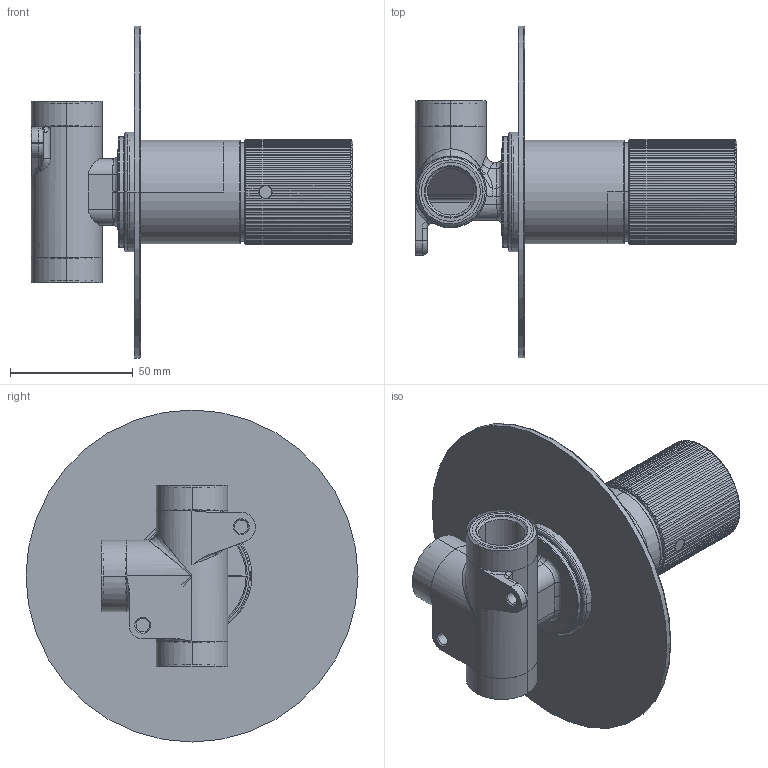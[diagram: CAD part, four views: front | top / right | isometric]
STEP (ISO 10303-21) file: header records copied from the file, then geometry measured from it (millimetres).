
FILE_DESCRIPTION((''),'2;1');
FILE_NAME('156823500_ASM','2022-08-25T17:00:49',('tec11'),(''),'CREO PARAMETRIC BY PTC INC, 2018260','CREO PARAMETRIC BY PTC INC, 2018260','');
FILE_SCHEMA(('CONFIG_CONTROL_DESIGN'));
Length unit declared in the file: millimetre
Products named in the file (13): 201510030102; 206093380102; 204011239901; 205021070102; 206093490126; 205055110126; 208001960601; 202011070126; 205011481601; 202030450616; 206023911626; 207030700601; 156823500_ASM
Assembly tree (12 placements, depth 2):
  156823500_ASM
    201510030102
    206093380102
    204011239901
    205021070102
    206093490126
    205055110126
    208001960601
    202011070126
    205011481601
    202030450616
    206023911626
    207030700601
Bounding box: 130.85 x 135 x 135 mm (x, y, z)
Volume: 145253.4 mm3; surface area: 155502.1 mm2
Topology: 12 solids, 30 shells, 953 faces, 2419 edges, 1525 vertices
Faces by surface type: cylinder 394, plane 264, bspline 127, cone 97, torus 55, sphere 16
Entity records: 38255 total; most frequent: CARTESIAN_POINT 15728, ORIENTED_EDGE 4710, DIRECTION 4574, EDGE_CURVE 2411, AXIS2_PLACEMENT_3D 1821, VERTEX_POINT 1525, EDGE_LOOP 1026, CIRCLE 956
